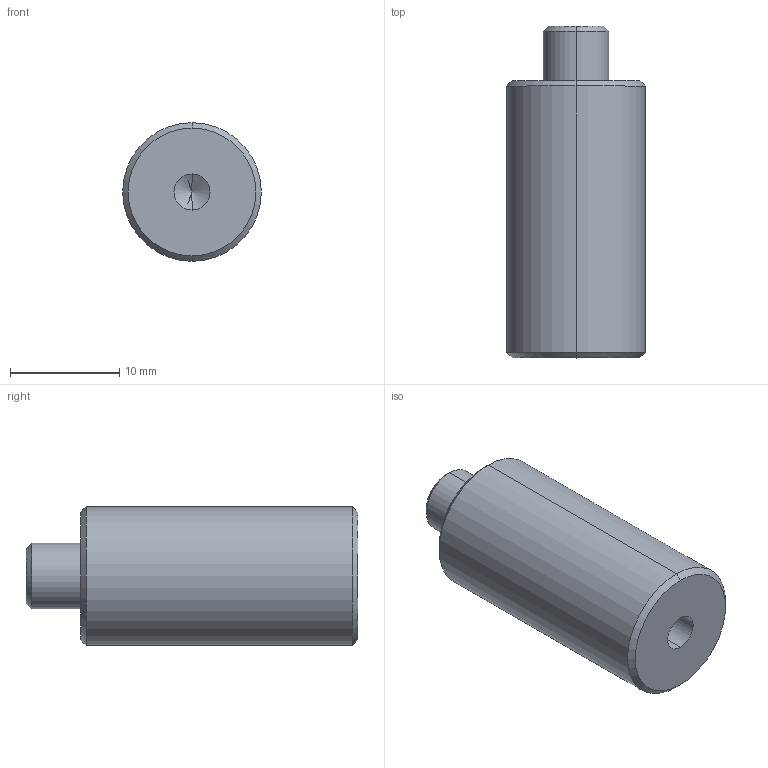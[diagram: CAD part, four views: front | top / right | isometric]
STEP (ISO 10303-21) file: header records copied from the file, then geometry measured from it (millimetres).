
FILE_DESCRIPTION (( 'STEP AP203' ), '1' );
FILE_NAME ('(STEP)M-PDJ-1.STEP', '2020-03-31T03:48:42', ( '' ), ( '' ), 'SwSTEP 2.0', 'SolidWorks 2019', '' );
FILE_SCHEMA (( 'CONFIG_CONTROL_DESIGN' ));
Length unit declared in the file: millimetre
Products named in the file (1): (STEP)M-PDJ-1
Bounding box: 12.7 x 30.4 x 12.7 mm (x, y, z)
Volume: 3257.8 mm3; surface area: 1437.3 mm2
Topology: 1 solids, 1 shells, 17 faces, 34 edges, 19 vertices
Faces by surface type: cone 8, cylinder 6, plane 3
Entity records: 505 total; most frequent: DIRECTION 86, CARTESIAN_POINT 69, ORIENTED_EDGE 64, AXIS2_PLACEMENT_3D 36, EDGE_CURVE 32, VERTEX_POINT 19, EDGE_LOOP 19, CIRCLE 18
